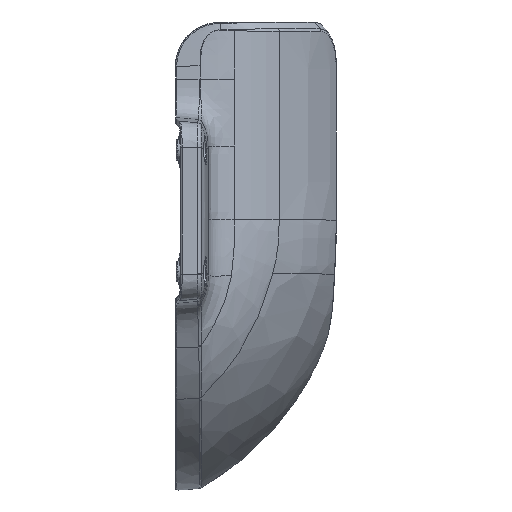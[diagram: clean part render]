
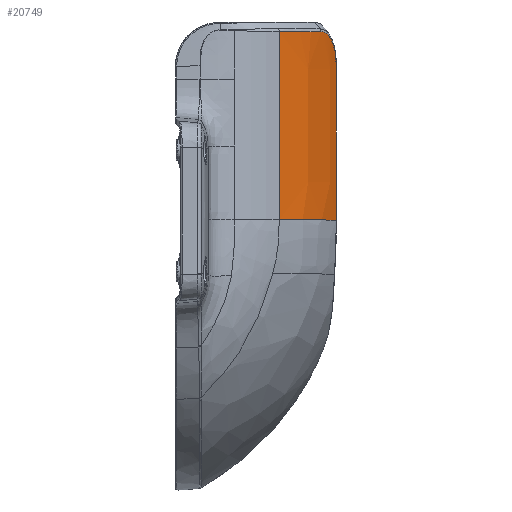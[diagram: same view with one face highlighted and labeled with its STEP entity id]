
A CAD part, top view. The second image highlights one B-rep face of the part: STEP entity #20749.
In plain terms, the highlighted face is a extrusion surface.
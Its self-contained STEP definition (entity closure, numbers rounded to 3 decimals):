
#3557=DIRECTION('',(0.,-1.,0.));
#3558=VECTOR('',#3557,83.816);
#3559=CARTESIAN_POINT('',(-149.815,-171.183,
228.083));
#3560=LINE('',#3559,#3558);
#3564=CARTESIAN_POINT('',(-149.815,-171.183,
228.083));
#3565=CARTESIAN_POINT('',(-145.106,-171.183,
223.167));
#3566=CARTESIAN_POINT('',(-138.439,-171.184,
214.941));
#3567=CARTESIAN_POINT('',(-133.015,-171.185,
205.865));
#3568=CARTESIAN_POINT('',(-131.261,-171.185,
202.556));
#3573=CARTESIAN_POINT('',(-124.489,-186.689,
186.953));
#3574=CARTESIAN_POINT('',(-124.489,-186.155,
186.953));
#3575=CARTESIAN_POINT('',(-124.508,-185.093,
187.008));
#3576=CARTESIAN_POINT('',(-124.623,-182.979,
187.34));
#3577=CARTESIAN_POINT('',(-124.846,-180.983,
187.978));
#3578=CARTESIAN_POINT('',(-125.186,-179.094,
188.917));
#3579=CARTESIAN_POINT('',(-125.601,-177.321,
190.038));
#3580=CARTESIAN_POINT('',(-126.116,-175.772,
191.381));
#3581=CARTESIAN_POINT('',(-126.752,-174.426,
192.953));
#3582=CARTESIAN_POINT('',(-127.444,-173.273,
194.607));
#3583=CARTESIAN_POINT('',(-128.224,-172.384,
196.381));
#3584=CARTESIAN_POINT('',(-129.102,-171.754,
198.267));
#3585=CARTESIAN_POINT('',(-130.018,-171.315,
200.159));
#3586=CARTESIAN_POINT('',(-130.752,-171.184,
201.595));
#3587=CARTESIAN_POINT('',(-131.261,-171.185,
202.556));
#3592=DIRECTION('',(0.,-1.,0.));
#3593=VECTOR('',#3592,68.075);
#3594=CARTESIAN_POINT('',(-124.489,-186.689,
186.953));
#3595=LINE('',#3594,#3593);
#3599=DIRECTION('',(-0.001,-1.,0.001));
#3600=VECTOR('',#3599,0.236);
#3601=CARTESIAN_POINT('',(-124.489,-254.764,
186.953));
#3602=LINE('',#3601,#3600);
#3628=CARTESIAN_POINT('',(-149.815,-255.,
228.083));
#3629=CARTESIAN_POINT('',(-145.964,-255.,
224.06));
#3630=CARTESIAN_POINT('',(-139.766,-255.,
216.648));
#3631=CARTESIAN_POINT('',(-132.375,-255.,
205.072));
#3632=CARTESIAN_POINT('',(-127.669,-255.,
195.488));
#3633=CARTESIAN_POINT('',(-125.31,-255.,
189.332));
#3634=CARTESIAN_POINT('',(-124.489,-255.,
186.953));
#10976=CARTESIAN_POINT('',(-124.489,-186.689,
186.953));
#15419=CARTESIAN_POINT('',(-149.815,-255.,
228.083));
#15420=VERTEX_POINT('',#15419);
#15726=VERTEX_POINT('',#3634);
#15760=CARTESIAN_POINT('',(-124.489,-254.764,
186.953));
#15761=VERTEX_POINT('',#15760);
#15828=CARTESIAN_POINT('',(-149.815,-171.183,
228.083));
#15829=VERTEX_POINT('',#15828);
#15872=VERTEX_POINT('',#10976);
#15927=VERTEX_POINT('',#3568);
#20724=CARTESIAN_POINT('',(-124.175,-170.68,
186.031));
#20725=CARTESIAN_POINT('',(-124.279,-170.68,
186.339));
#20726=CARTESIAN_POINT('',(-125.193,-170.68,
189.029));
#20727=CARTESIAN_POINT('',(-128.682,-170.68,
198.135));
#20728=CARTESIAN_POINT('',(-136.438,-170.68,
212.474));
#20729=CARTESIAN_POINT('',(-145.209,-170.68,
223.293));
#20730=CARTESIAN_POINT('',(-150.04,-170.68,
228.317));
#20731=CARTESIAN_POINT('',(-150.152,-170.68,
228.434));
#20733=DIRECTION('',(0.,-1.,0.));
#20734=VECTOR('',#20733,1.);
#20735=SURFACE_OF_LINEAR_EXTRUSION('',#20732,#20734);
#20737=ORIENTED_EDGE('',*,*,#20736,.F.);
#20738=ORIENTED_EDGE('',*,*,#20711,.F.);
#20740=ORIENTED_EDGE('',*,*,#20739,.T.);
#20742=ORIENTED_EDGE('',*,*,#20741,.F.);
#20744=ORIENTED_EDGE('',*,*,#20743,.T.);
#20746=ORIENTED_EDGE('',*,*,#20745,.T.);
#20747=EDGE_LOOP('',(#20737,#20738,#20740,#20742,#20744,#20746));
#20748=FACE_OUTER_BOUND('',#20747,.F.);
#20749=ADVANCED_FACE('',(#20748),#20735,.T.);
#3569=B_SPLINE_CURVE_WITH_KNOTS('',3,(#3564,#3565,#3566,#3567,#3568),
.UNSPECIFIED.,.F.,.F.,(4,1,4),(0.,0.645,1.),.UNSPECIFIED.);
#3588=B_SPLINE_CURVE_WITH_KNOTS('',3,(#3573,#3574,#3575,#3576,#3577,#3578,#3579,
#3580,#3581,#3582,#3583,#3584,#3585,#3586,#3587),.UNSPECIFIED.,.F.,.F.,(4,1,1,1,
1,1,1,1,1,1,1,1,4),(0.,0.062,0.125,0.25,
0.312,0.375,0.5,0.562,
0.625,0.75,0.812,0.875,1.),
.UNSPECIFIED.);
#3635=B_SPLINE_CURVE_WITH_KNOTS('',3,(#3628,#3629,#3630,#3631,#3632,#3633,
#3634),.UNSPECIFIED.,.F.,.F.,(4,1,1,1,4),(0.,0.343,
0.594,0.845,1.),.UNSPECIFIED.);
#20711=EDGE_CURVE('',#15829,#15420,#3560,.T.);
#20732=B_SPLINE_CURVE_WITH_KNOTS('',3,(#20724,#20725,#20726,#20727,#20728,
#20729,#20730,#20731),.UNSPECIFIED.,.F.,.F.,(4,1,1,1,1,4),(0.,
0.019,0.17,0.583,0.99,1.),
.UNSPECIFIED.);
#20736=EDGE_CURVE('',#15420,#15726,#3635,.T.);
#20739=EDGE_CURVE('',#15829,#15927,#3569,.T.);
#20741=EDGE_CURVE('',#15872,#15927,#3588,.T.);
#20743=EDGE_CURVE('',#15872,#15761,#3595,.T.);
#20745=EDGE_CURVE('',#15761,#15726,#3602,.T.);
